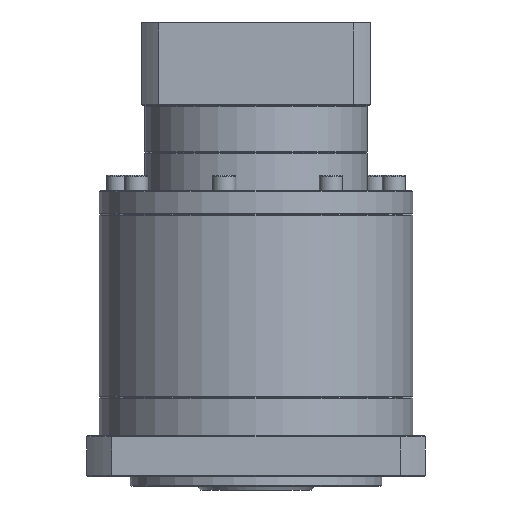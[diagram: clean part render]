
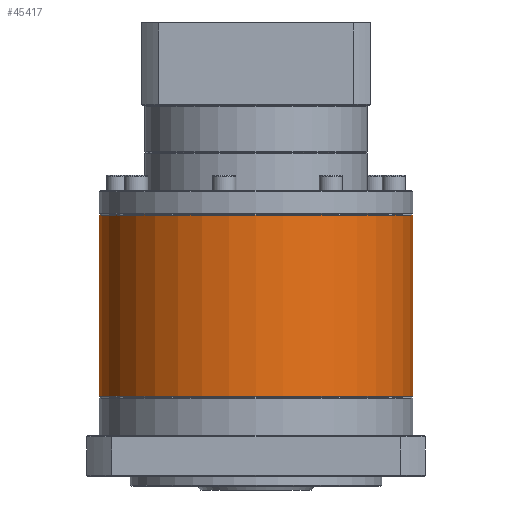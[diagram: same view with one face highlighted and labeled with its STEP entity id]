
A CAD part, front view. The second image highlights one B-rep face of the part: STEP entity #45417.
In plain terms, the highlighted cylindrical face has radius 81 mm (diameter 162 mm), a partial arc.
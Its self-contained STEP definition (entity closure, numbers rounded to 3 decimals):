
#1167 = VERTEX_POINT ( 'NONE', #64654 ) ;
#1195 = AXIS2_PLACEMENT_3D ( 'NONE', #48431, #17507, #31485 ) ;
#6733 = CARTESIAN_POINT ( 'NONE',  ( -189.726, 59.557, -77.089 ) ) ;
#10500 = AXIS2_PLACEMENT_3D ( 'NONE', #36078, #89780, #35735 ) ;
#15503 = CIRCLE ( 'NONE', #10500, 81. ) ;
#16558 = DIRECTION ( 'NONE',  ( 0., 0., -1. ) ) ;
#17507 = DIRECTION ( 'NONE',  ( 0., 0., -1. ) ) ;
#19857 = VERTEX_POINT ( 'NONE', #80339 ) ;
#21120 = DIRECTION ( 'NONE',  ( 0., 0., -1. ) ) ;
#26152 = ORIENTED_EDGE ( 'NONE', *, *, #89873, .T. ) ;
#26431 = CARTESIAN_POINT ( 'NONE',  ( -189.726, 59.557, -170.589 ) ) ;
#30833 = FACE_OUTER_BOUND ( 'NONE', #94755, .T. ) ;
#31485 = DIRECTION ( 'NONE',  ( -1., 0., 0. ) ) ;
#31804 = EDGE_CURVE ( 'NONE', #51175, #65622, #96304, .T. ) ;
#32475 = ORIENTED_EDGE ( 'NONE', *, *, #71383, .T. ) ;
#35504 = DIRECTION ( 'NONE',  ( 0., 0., 1. ) ) ;
#35735 = DIRECTION ( 'NONE',  ( -1., 0., 0. ) ) ;
#36078 = CARTESIAN_POINT ( 'NONE',  ( -108.726, 59.557, -77.089 ) ) ;
#36726 = VECTOR ( 'NONE', #21120, 1000. ) ;
#43914 = AXIS2_PLACEMENT_3D ( 'NONE', #74236, #35504, #66794 ) ;
#45417 = ADVANCED_FACE ( 'NONE', ( #30833 ), #89244, .T. ) ;
#47085 = ORIENTED_EDGE ( 'NONE', *, *, #100293, .F. ) ;
#48431 = CARTESIAN_POINT ( 'NONE',  ( -108.726, 59.557, -76.589 ) ) ;
#51175 = VERTEX_POINT ( 'NONE', #6733 ) ;
#52041 = CARTESIAN_POINT ( 'NONE',  ( -189.726, 59.557, -76.589 ) ) ;
#62922 = VECTOR ( 'NONE', #16558, 1000. ) ;
#64654 = CARTESIAN_POINT ( 'NONE',  ( -27.726, 59.557, -170.589 ) ) ;
#65622 = VERTEX_POINT ( 'NONE', #26431 ) ;
#66794 = DIRECTION ( 'NONE',  ( -1., 0., 0. ) ) ;
#70231 = LINE ( 'NONE', #78128, #62922 ) ;
#71383 = EDGE_CURVE ( 'NONE', #19857, #51175, #15503, .T. ) ;
#74236 = CARTESIAN_POINT ( 'NONE',  ( -108.726, 59.557, -170.589 ) ) ;
#76194 = ORIENTED_EDGE ( 'NONE', *, *, #31804, .T. ) ;
#78128 = CARTESIAN_POINT ( 'NONE',  ( -27.726, 59.557, -76.589 ) ) ;
#80339 = CARTESIAN_POINT ( 'NONE',  ( -27.726, 59.557, -77.089 ) ) ;
#86673 = CIRCLE ( 'NONE', #43914, 81. ) ;
#89244 = CYLINDRICAL_SURFACE ( 'NONE', #1195, 81. ) ;
#89780 = DIRECTION ( 'NONE',  ( 0., 0., -1. ) ) ;
#89873 = EDGE_CURVE ( 'NONE', #65622, #1167, #86673, .T. ) ;
#94755 = EDGE_LOOP ( 'NONE', ( #47085, #32475, #76194, #26152 ) ) ;
#96304 = LINE ( 'NONE', #52041, #36726 ) ;
#100293 = EDGE_CURVE ( 'NONE', #19857, #1167, #70231, .T. ) ;
